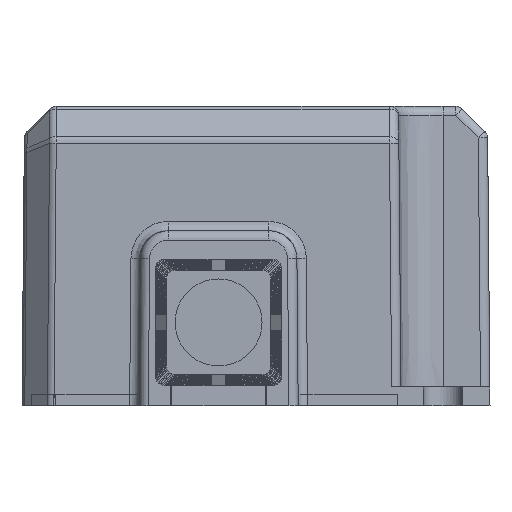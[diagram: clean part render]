
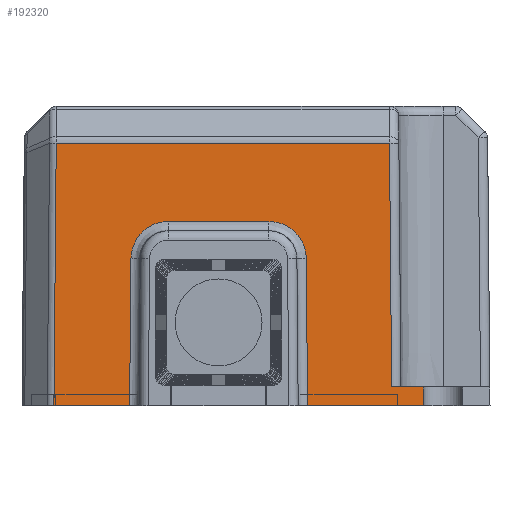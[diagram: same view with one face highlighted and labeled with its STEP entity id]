
A CAD part, left-side view. The second image highlights one B-rep face of the part: STEP entity #192320.
In plain terms, the highlighted planar face has unit normal (-1, 0, 0.009) as drawn and (-1, 0.009, 0) by its records, which use the part's own axes.
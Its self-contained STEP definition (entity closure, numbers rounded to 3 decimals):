
#1280=CARTESIAN_POINT('',(-77.417,0.,5.51));
#1290=VERTEX_POINT('',#1280);
#1320=CARTESIAN_POINT('',(-77.417,0.,17.9));
#1330=DIRECTION('',(0.,0.,-1.));
#1340=VECTOR('',#1330,1.);
#1350=LINE('',#1320,#1340);
#1360=CARTESIAN_POINT('',(-77.417,0.,17.9));
#1370=VERTEX_POINT('',#1360);
#1380=EDGE_CURVE('',#1370,#1290,#1350,.T.);
#4860=CARTESIAN_POINT('',(-77.417,0.,-21.603));
#4870=VERTEX_POINT('',#4860);
#4900=CARTESIAN_POINT('',(-77.417,0.,-13.51));
#4910=DIRECTION('',(0.,0.,-1.));
#4920=VECTOR('',#4910,1.);
#4930=LINE('',#4900,#4920);
#4940=CARTESIAN_POINT('',(-77.417,0.,-13.51));
#4950=VERTEX_POINT('',#4940);
#4960=EDGE_CURVE('',#4950,#4870,#4930,.T.);
#184610=CARTESIAN_POINT('',(-77.4,2.,17.9));
#184620=VERTEX_POINT('',#184610);
#184650=CARTESIAN_POINT('',(-77.4,2.,17.9));
#184660=DIRECTION('',(0.,0.,-1.));
#184670=VECTOR('',#184660,1.);
#184680=LINE('',#184650,#184670);
#184690=CARTESIAN_POINT('',(-77.4,2.,14.5));
#184700=VERTEX_POINT('',#184690);
#184710=EDGE_CURVE('',#184620,#184700,#184680,.T.);
#191250=CARTESIAN_POINT('',(-77.173,28.051,
-21.359));
#191260=VERTEX_POINT('',#191250);
#191350=CARTESIAN_POINT('',(-77.173,28.051,
14.273));
#191360=VERTEX_POINT('',#191350);
#191390=CARTESIAN_POINT('',(-77.173,28.051,
-21.359));
#191400=DIRECTION('',(0.,0.,1.));
#191410=VECTOR('',#191400,1.);
#191420=LINE('',#191390,#191410);
#191430=EDGE_CURVE('',#191260,#191360,#191420,.T.);
#191550=CARTESIAN_POINT('',(-77.4,2.,-27.359));
#191560=DIRECTION('',(-1.,0.009,0.));
#191570=DIRECTION('',(0.,0.,-1.));
#191580=AXIS2_PLACEMENT_3D('',#191550,#191560,#191570);
#191590=PLANE('',#191580);
#191600=ORIENTED_EDGE('',*,*,#4960,.F.);
#191610=CARTESIAN_POINT('',(-77.173,28.051,
-21.359));
#191620=DIRECTION('',(-0.009,-1.,
-0.009));
#191630=VECTOR('',#191620,1.);
#191640=LINE('',#191610,#191630);
#191650=EDGE_CURVE('',#191260,#4870,#191640,.T.);
#191660=ORIENTED_EDGE('',*,*,#191650,.T.);
#191670=ORIENTED_EDGE('',*,*,#191430,.F.);
#191680=CARTESIAN_POINT('',(-77.4,2.,
14.5));
#191690=DIRECTION('',(0.009,1.,
-0.009));
#191700=VECTOR('',#191690,1.);
#191710=LINE('',#191680,#191700);
#191720=EDGE_CURVE('',#184700,#191360,#191710,.T.);
#191730=ORIENTED_EDGE('',*,*,#191720,.T.);
#191740=ORIENTED_EDGE('',*,*,#184710,.T.);
#191750=CARTESIAN_POINT('',(-77.4,2.,17.9));
#191760=DIRECTION('',(-0.009,-1.,0.));
#191770=VECTOR('',#191760,1.);
#191780=LINE('',#191750,#191770);
#191790=EDGE_CURVE('',#184620,#1370,#191780,.T.);
#191800=ORIENTED_EDGE('',*,*,#191790,.F.);
#191810=ORIENTED_EDGE('',*,*,#1380,.F.);
#191820=CARTESIAN_POINT('',(-77.28,15.726,
5.373));
#191830=DIRECTION('',(-0.009,-1.,
0.009));
#191840=VECTOR('',#191830,1.);
#191850=LINE('',#191820,#191840);
#191860=CARTESIAN_POINT('',(-77.28,15.726,
5.373));
#191870=VERTEX_POINT('',#191860);
#191880=EDGE_CURVE('',#191870,#1290,#191850,.T.);
#191890=ORIENTED_EDGE('',*,*,#191880,.T.);
#191900=CARTESIAN_POINT('',(-77.246,19.691,
1.373));
#191910=CARTESIAN_POINT('',(-77.246,19.691,
1.805));
#191920=CARTESIAN_POINT('',(-77.247,19.558,
2.622));
#191930=CARTESIAN_POINT('',(-77.252,18.986,
3.755));
#191940=CARTESIAN_POINT('',(-77.259,18.101,
4.648));
#191950=CARTESIAN_POINT('',(-77.269,16.973,
5.23));
#191960=CARTESIAN_POINT('',(-77.276,16.158,
5.369));
#191970=CARTESIAN_POINT('',(-77.28,15.726,
5.373));
#191980=B_SPLINE_CURVE_WITH_KNOTS('',3,(#191900,#191910,#191920,#191930,
#191940,#191950,#191960,#191970),.UNSPECIFIED.,.F.,.F.,(4,1,1,1,1,4),(0.
,0.2,0.4,0.6,0.8,1.),.UNSPECIFIED.);
#191990=CARTESIAN_POINT('',(-77.246,19.691,
1.373));
#192000=VERTEX_POINT('',#191990);
#192010=EDGE_CURVE('',#192000,#191870,#191980,.T.);
#192020=ORIENTED_EDGE('',*,*,#192010,.T.);
#192030=CARTESIAN_POINT('',(-77.246,19.691,
1.373));
#192040=DIRECTION('',(0.,0.,-1.));
#192050=VECTOR('',#192040,1.);
#192060=LINE('',#192030,#192050);
#192070=CARTESIAN_POINT('',(-77.246,19.691,
-9.373));
#192080=VERTEX_POINT('',#192070);
#192090=EDGE_CURVE('',#192000,#192080,#192060,.T.);
#192100=ORIENTED_EDGE('',*,*,#192090,.F.);
#192110=CARTESIAN_POINT('',(-77.28,15.726,
-13.373));
#192120=CARTESIAN_POINT('',(-77.276,16.158,
-13.369));
#192130=CARTESIAN_POINT('',(-77.269,16.974,
-13.23));
#192140=CARTESIAN_POINT('',(-77.259,18.101,
-12.648));
#192150=CARTESIAN_POINT('',(-77.252,18.987,
-11.755));
#192160=CARTESIAN_POINT('',(-77.247,19.559,
-10.622));
#192170=CARTESIAN_POINT('',(-77.246,19.691,
-9.805));
#192180=CARTESIAN_POINT('',(-77.246,19.691,
-9.373));
#192190=B_SPLINE_CURVE_WITH_KNOTS('',3,(#192110,#192120,#192130,#192140,
#192150,#192160,#192170,#192180),.UNSPECIFIED.,.F.,.F.,(4,1,1,1,1,4),(0.
,0.2,0.4,0.6,0.8,1.),.UNSPECIFIED.);
#192200=CARTESIAN_POINT('',(-77.28,15.726,
-13.373));
#192210=VERTEX_POINT('',#192200);
#192220=EDGE_CURVE('',#192210,#192080,#192190,.T.);
#192230=ORIENTED_EDGE('',*,*,#192220,.T.);
#192240=CARTESIAN_POINT('',(-77.417,0.,
-13.51));
#192250=DIRECTION('',(0.009,1.,
0.009));
#192260=VECTOR('',#192250,1.);
#192270=LINE('',#192240,#192260);
#192280=EDGE_CURVE('',#4950,#192210,#192270,.T.);
#192290=ORIENTED_EDGE('',*,*,#192280,.T.);
#192300=EDGE_LOOP('',(#192290,#192230,#192100,#192020,#191890,#191810,
#191800,#191740,#191730,#191670,#191660,#191600));
#192310=FACE_OUTER_BOUND('',#192300,.T.);
#192320=ADVANCED_FACE('',(#192310),#191590,.T.);
